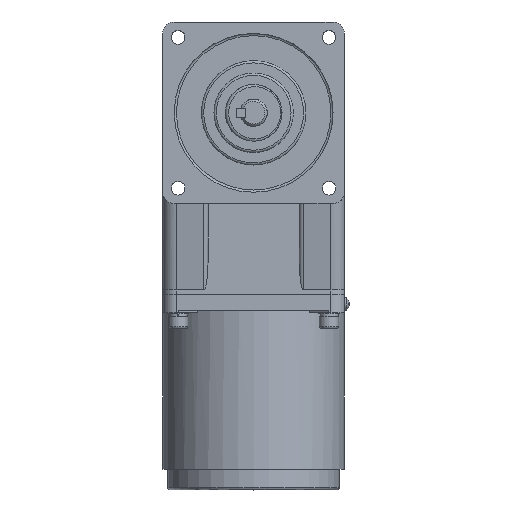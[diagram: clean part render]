
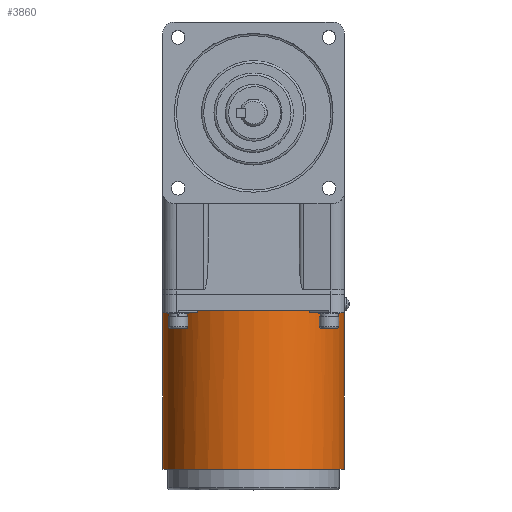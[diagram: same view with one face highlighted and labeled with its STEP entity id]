
A CAD part, top view. The second image highlights one B-rep face of the part: STEP entity #3860.
In plain terms, the highlighted cylindrical face has radius 40 mm (diameter 80 mm), a full revolution.
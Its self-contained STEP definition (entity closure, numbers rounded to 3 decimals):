
#1383=LINE('',#18248,#1984);
#1391=LINE('',#18281,#1992);
#1398=LINE('',#18301,#1999);
#1408=LINE('',#18328,#2009);
#1410=LINE('',#18333,#2011);
#1413=LINE('',#18339,#2014);
#1425=LINE('',#18371,#2026);
#1429=LINE('',#18378,#2030);
#1984=VECTOR('',#14181,1.);
#1992=VECTOR('',#14219,1.);
#1999=VECTOR('',#14236,1.);
#2009=VECTOR('',#14258,1.);
#2011=VECTOR('',#14262,1.);
#2014=VECTOR('',#14267,1.);
#2026=VECTOR('',#14291,1.);
#2030=VECTOR('',#14297,1.);
#3276=CYLINDRICAL_SURFACE('',#11660,40.);
#3860=ADVANCED_FACE('',(#4460,#4461),#3276,.T.);
#4460=FACE_BOUND('',#5198,.T.);
#4461=FACE_BOUND('',#5199,.T.);
#5198=EDGE_LOOP('',(#7650,#7651,#7652,#7653,#7654,#7655,#7656,#7657,#7658,
#7659,#7660,#7661,#7662,#7663,#7664,#7665,#7666,#7667,#7668,#7669));
#5199=EDGE_LOOP('',(#7670));
#7650=ORIENTED_EDGE('',*,*,#9708,.F.);
#7651=ORIENTED_EDGE('',*,*,#9688,.T.);
#7652=ORIENTED_EDGE('',*,*,#9695,.T.);
#7653=ORIENTED_EDGE('',*,*,#9810,.F.);
#7654=ORIENTED_EDGE('',*,*,#9740,.T.);
#7655=ORIENTED_EDGE('',*,*,#9807,.T.);
#7656=ORIENTED_EDGE('',*,*,#9805,.T.);
#7657=ORIENTED_EDGE('',*,*,#9759,.F.);
#7658=ORIENTED_EDGE('',*,*,#9748,.F.);
#7659=ORIENTED_EDGE('',*,*,#9755,.T.);
#7660=ORIENTED_EDGE('',*,*,#9806,.T.);
#7661=ORIENTED_EDGE('',*,*,#9808,.T.);
#7662=ORIENTED_EDGE('',*,*,#9735,.F.);
#7663=ORIENTED_EDGE('',*,*,#9729,.F.);
#7664=ORIENTED_EDGE('',*,*,#9737,.T.);
#7665=ORIENTED_EDGE('',*,*,#9804,.T.);
#7666=ORIENTED_EDGE('',*,*,#9809,.T.);
#7667=ORIENTED_EDGE('',*,*,#9722,.F.);
#7668=ORIENTED_EDGE('',*,*,#9714,.F.);
#7669=ORIENTED_EDGE('',*,*,#9712,.F.);
#7670=ORIENTED_EDGE('',*,*,#9789,.T.);
#8475=VERTEX_POINT('',#18231);
#8477=VERTEX_POINT('',#18234);
#8481=VERTEX_POINT('',#18246);
#8489=VERTEX_POINT('',#18268);
#8492=VERTEX_POINT('',#18280);
#8494=VERTEX_POINT('',#18286);
#8499=VERTEX_POINT('',#18298);
#8506=VERTEX_POINT('',#18315);
#8507=VERTEX_POINT('',#18317);
#8510=VERTEX_POINT('',#18325);
#8513=VERTEX_POINT('',#18332);
#8515=VERTEX_POINT('',#18338);
#8516=VERTEX_POINT('',#18340);
#8522=VERTEX_POINT('',#18356);
#8523=VERTEX_POINT('',#18357);
#8529=VERTEX_POINT('',#18370);
#8530=VERTEX_POINT('',#18375);
#8557=VERTEX_POINT('',#18453);
#8558=VERTEX_POINT('',#18456);
#8559=VERTEX_POINT('',#18466);
#8560=VERTEX_POINT('',#18470);
#9688=EDGE_CURVE('',#8477,#8475,#10310,.T.);
#9695=EDGE_CURVE('',#8475,#8481,#1383,.T.);
#9708=EDGE_CURVE('',#8477,#8489,#10321,.T.);
#9712=EDGE_CURVE('',#8489,#8492,#1391,.T.);
#9714=EDGE_CURVE('',#8492,#8494,#10324,.T.);
#9722=EDGE_CURVE('',#8494,#8499,#1398,.T.);
#9729=EDGE_CURVE('',#8506,#8507,#10327,.T.);
#9735=EDGE_CURVE('',#8507,#8510,#1408,.T.);
#9737=EDGE_CURVE('',#8506,#8513,#1410,.T.);
#9740=EDGE_CURVE('',#8516,#8515,#1413,.T.);
#9748=EDGE_CURVE('',#8522,#8523,#10330,.T.);
#9755=EDGE_CURVE('',#8522,#8529,#1425,.T.);
#9759=EDGE_CURVE('',#8523,#8530,#1429,.T.);
#9789=EDGE_CURVE('',#8557,#8557,#10353,.T.);
#9804=EDGE_CURVE('',#8513,#8560,#10354,.T.);
#9805=EDGE_CURVE('',#8558,#8530,#10355,.T.);
#9806=EDGE_CURVE('',#8529,#8559,#10356,.T.);
#9807=EDGE_CURVE('',#8515,#8558,#10357,.T.);
#9808=EDGE_CURVE('',#8559,#8510,#10358,.T.);
#9809=EDGE_CURVE('',#8560,#8499,#10359,.T.);
#9810=EDGE_CURVE('',#8516,#8481,#10360,.T.);
#10310=CIRCLE('',#11556,40.);
#10321=CIRCLE('',#11572,40.);
#10324=CIRCLE('',#11579,40.);
#10327=CIRCLE('',#11585,40.);
#10330=CIRCLE('',#11593,40.);
#10353=CIRCLE('',#11637,40.);
#10354=CIRCLE('',#11646,40.);
#10355=CIRCLE('',#11648,40.);
#10356=CIRCLE('',#11650,40.);
#10357=CIRCLE('',#11652,40.);
#10358=CIRCLE('',#11654,40.);
#10359=CIRCLE('',#11656,40.);
#10360=CIRCLE('',#11658,40.);
#11556=AXIS2_PLACEMENT_3D('',#18233,#14166,#14167);
#11572=AXIS2_PLACEMENT_3D('',#18273,#14207,#14208);
#11579=AXIS2_PLACEMENT_3D('',#18285,#14224,#14225);
#11585=AXIS2_PLACEMENT_3D('',#18316,#14248,#14249);
#11593=AXIS2_PLACEMENT_3D('',#18355,#14280,#14281);
#11637=AXIS2_PLACEMENT_3D('',#18452,#14386,#14387);
#11646=AXIS2_PLACEMENT_3D('',#18479,#14418,#14419);
#11648=AXIS2_PLACEMENT_3D('',#18481,#14422,#14423);
#11650=AXIS2_PLACEMENT_3D('',#18483,#14426,#14427);
#11652=AXIS2_PLACEMENT_3D('',#18485,#14430,#14431);
#11654=AXIS2_PLACEMENT_3D('',#18487,#14434,#14435);
#11656=AXIS2_PLACEMENT_3D('',#18489,#14438,#14439);
#11658=AXIS2_PLACEMENT_3D('',#18491,#14442,#14443);
#11660=AXIS2_PLACEMENT_3D('',#18493,#14446,#14447);
#14166=DIRECTION('',(0.,-1.,0.));
#14167=DIRECTION('',(-1.,0.,0.));
#14181=DIRECTION('',(0.,1.,0.));
#14207=DIRECTION('',(0.,1.,0.));
#14208=DIRECTION('',(1.,0.,0.));
#14219=DIRECTION('',(0.,1.,0.));
#14224=DIRECTION('',(0.,1.,0.));
#14225=DIRECTION('',(1.,0.,0.));
#14236=DIRECTION('',(0.,1.,0.));
#14248=DIRECTION('',(0.,1.,0.));
#14249=DIRECTION('',(1.,0.,0.));
#14258=DIRECTION('',(0.,1.,0.));
#14262=DIRECTION('',(0.,1.,0.));
#14267=DIRECTION('',(0.,1.,0.));
#14280=DIRECTION('',(0.,1.,0.));
#14281=DIRECTION('',(1.,0.,0.));
#14291=DIRECTION('',(0.,1.,0.));
#14297=DIRECTION('',(0.,1.,0.));
#14386=DIRECTION('',(0.,1.,0.));
#14387=DIRECTION('',(1.,0.,0.));
#14418=DIRECTION('',(0.,-1.,0.));
#14419=DIRECTION('',(1.,0.,0.));
#14422=DIRECTION('',(0.,-1.,0.));
#14423=DIRECTION('',(1.,0.,0.));
#14426=DIRECTION('',(0.,-1.,0.));
#14427=DIRECTION('',(1.,0.,0.));
#14430=DIRECTION('',(0.,-1.,0.));
#14431=DIRECTION('',(1.,0.,0.));
#14434=DIRECTION('',(0.,-1.,0.));
#14435=DIRECTION('',(1.,0.,0.));
#14438=DIRECTION('',(0.,-1.,0.));
#14439=DIRECTION('',(1.,0.,0.));
#14442=DIRECTION('',(0.,1.,0.));
#14443=DIRECTION('',(1.,0.,0.));
#14446=DIRECTION('',(0.,-1.,0.));
#14447=DIRECTION('',(1.,0.,0.));
#18231=CARTESIAN_POINT('',(26.14,-142.,-77.277));
#18233=CARTESIAN_POINT('',(0.,-142.,-47.));
#18234=CARTESIAN_POINT('',(0.,-142.,-87.));
#18246=CARTESIAN_POINT('',(26.14,-88.,-77.277));
#18248=CARTESIAN_POINT('',(26.14,-142.,-77.277));
#18268=CARTESIAN_POINT('',(-26.14,-142.,-77.277));
#18273=CARTESIAN_POINT('',(0.,-142.,-47.));
#18280=CARTESIAN_POINT('',(-26.14,-88.,-77.277));
#18281=CARTESIAN_POINT('',(-26.14,-142.,-77.277));
#18285=CARTESIAN_POINT('',(0.,-88.,-47.));
#18286=CARTESIAN_POINT('',(-31.598,-88.,-71.527));
#18298=CARTESIAN_POINT('',(-31.598,-87.,-71.527));
#18301=CARTESIAN_POINT('',(-31.598,-88.,-71.527));
#18315=CARTESIAN_POINT('',(-31.598,-88.,-22.473));
#18316=CARTESIAN_POINT('',(0.,-88.,-47.));
#18317=CARTESIAN_POINT('',(-24.527,-88.,-15.402));
#18325=CARTESIAN_POINT('',(-24.527,-87.,-15.402));
#18328=CARTESIAN_POINT('',(-24.527,-88.,-15.402));
#18332=CARTESIAN_POINT('',(-31.598,-87.,-22.473));
#18333=CARTESIAN_POINT('',(-31.598,-88.,-22.473));
#18338=CARTESIAN_POINT('',(31.598,-87.,-71.527));
#18339=CARTESIAN_POINT('',(31.598,-88.,-71.527));
#18340=CARTESIAN_POINT('',(31.598,-88.,-71.527));
#18355=CARTESIAN_POINT('',(0.,-88.,-47.));
#18356=CARTESIAN_POINT('',(24.527,-88.,-15.402));
#18357=CARTESIAN_POINT('',(31.598,-88.,-22.473));
#18370=CARTESIAN_POINT('',(24.527,-87.,-15.402));
#18371=CARTESIAN_POINT('',(24.527,-88.,-15.402));
#18375=CARTESIAN_POINT('',(31.598,-87.,-22.473));
#18378=CARTESIAN_POINT('',(31.598,-88.,-22.473));
#18452=CARTESIAN_POINT('',(0.,-157.,-47.));
#18453=CARTESIAN_POINT('',(40.,-157.,-47.));
#18456=CARTESIAN_POINT('',(40.,-87.,-47.));
#18466=CARTESIAN_POINT('',(0.,-87.,-7.));
#18470=CARTESIAN_POINT('',(-40.,-87.,-47.));
#18479=CARTESIAN_POINT('',(0.,-87.,-47.));
#18481=CARTESIAN_POINT('',(0.,-87.,-47.));
#18483=CARTESIAN_POINT('',(0.,-87.,-47.));
#18485=CARTESIAN_POINT('',(0.,-87.,-47.));
#18487=CARTESIAN_POINT('',(0.,-87.,-47.));
#18489=CARTESIAN_POINT('',(0.,-87.,-47.));
#18491=CARTESIAN_POINT('',(0.,-88.,-47.));
#18493=CARTESIAN_POINT('',(0.,-87.,-47.));
